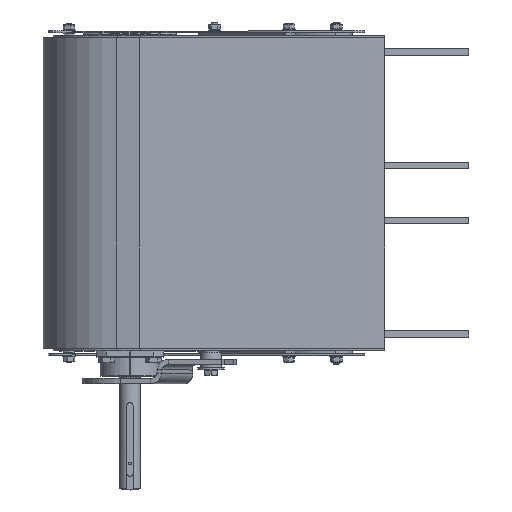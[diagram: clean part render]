
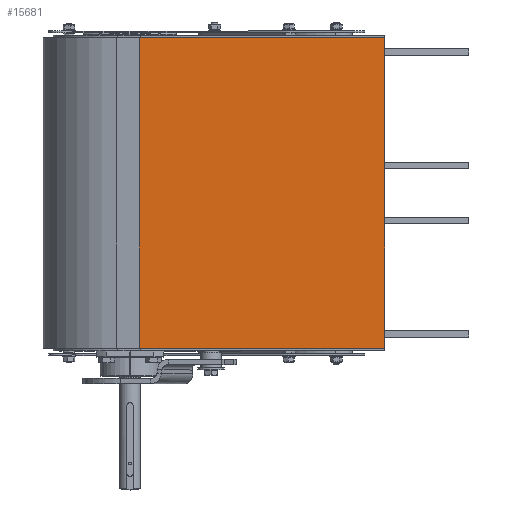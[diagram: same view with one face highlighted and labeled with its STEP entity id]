
A CAD part, top view. The second image highlights one B-rep face of the part: STEP entity #15681.
In plain terms, the highlighted planar face has unit normal (0, 0, 1).
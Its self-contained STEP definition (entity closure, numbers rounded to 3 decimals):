
#945=PLANE('',#17294);
#1933=FACE_OUTER_BOUND('',#2963,.T.);
#2963=EDGE_LOOP('',(#13793,#13794,#13795,#13796));
#4130=LINE('',#27273,#5305);
#4136=LINE('',#27285,#5311);
#4137=LINE('',#27288,#5312);
#4138=LINE('',#27289,#5313);
#5305=VECTOR('',#21593,10.);
#5311=VECTOR('',#21603,10.);
#5312=VECTOR('',#21606,10.);
#5313=VECTOR('',#21607,10.);
#7403=VERTEX_POINT('',#27269);
#7404=VERTEX_POINT('',#27271);
#7408=VERTEX_POINT('',#27282);
#7409=VERTEX_POINT('',#27287);
#9536=EDGE_CURVE('',#7403,#7404,#4130,.T.);
#9542=EDGE_CURVE('',#7408,#7403,#4136,.T.);
#9543=EDGE_CURVE('',#7408,#7409,#4137,.T.);
#9544=EDGE_CURVE('',#7409,#7404,#4138,.T.);
#13793=ORIENTED_EDGE('',*,*,#9543,.F.);
#13794=ORIENTED_EDGE('',*,*,#9542,.T.);
#13795=ORIENTED_EDGE('',*,*,#9536,.T.);
#13796=ORIENTED_EDGE('',*,*,#9544,.F.);
#15681=ADVANCED_FACE('',(#1933),#945,.T.);
#17294=AXIS2_PLACEMENT_3D('',#27286,#21604,#21605);
#21593=DIRECTION('',(0.,-1.,0.));
#21603=DIRECTION('',(-1.,0.,0.));
#21604=DIRECTION('center_axis',(0.,0.,
1.));
#21605=DIRECTION('ref_axis',(0.,1.,0.));
#21606=DIRECTION('',(0.,-1.,0.));
#21607=DIRECTION('',(-1.,0.,0.));
#27269=CARTESIAN_POINT('',(-233.048,147.5,46.5));
#27271=CARTESIAN_POINT('',(-233.048,-147.5,46.5));
#27273=CARTESIAN_POINT('',(-233.048,73.75,46.5));
#27282=CARTESIAN_POINT('',(0.,147.5,46.5));
#27285=CARTESIAN_POINT('',(0.,147.5,46.5));
#27286=CARTESIAN_POINT('Origin',(0.,-147.5,46.5));
#27287=CARTESIAN_POINT('',(0.,-147.5,46.5));
#27288=CARTESIAN_POINT('',(0.,147.5,46.5));
#27289=CARTESIAN_POINT('',(0.,-147.5,46.5));
